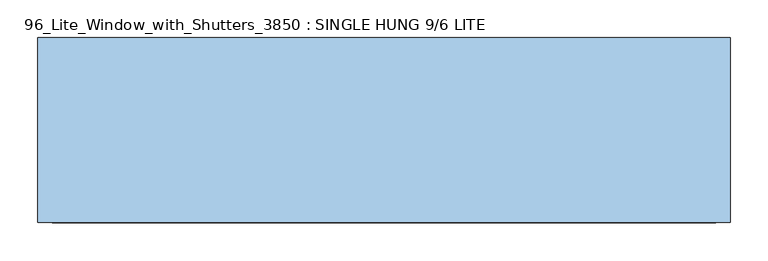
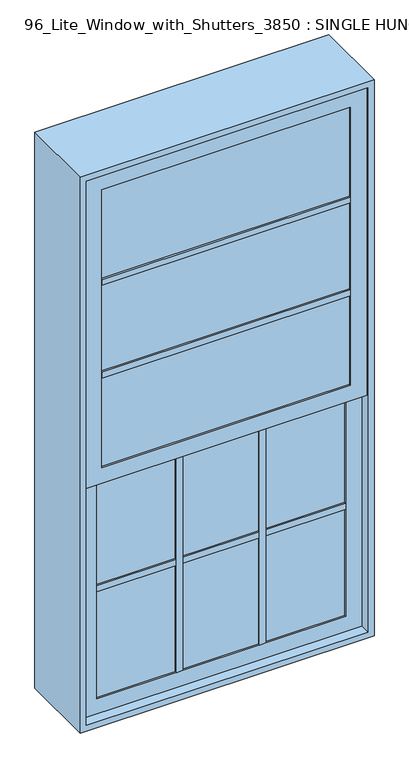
"""IFC4 building model written with IfcOpenShell, lengths in millimetres: window geometry, 96_Lite_Window_with_Shutters_3850 : SINGLE HUNG 9/6 LITE."""

from ifc_helpers import new_model, si_unit, frame, origin, place, context, project, spatial, polyline, outline, extrude, faceted_brep, source, transform, mapped, element, save


def window_96_lite_window_with_shutters_3850_single_hung_9_6_0142db39(model_context):
    return source(origin(), model_context, "Body", "SolidModel", [
        extrude(outline(polyline([(-387.35, -109.5375), (-387.35, -96.8375), (387.35, -96.8375), (387.35, -109.5375), (-387.35, -109.5375)])), frame((0.0, 0.0, 1149.35), z_axis=(0.0, 0.0, 1.0), x_axis=(1.0, 0.0, 0.0)), (0.0, 0.0, 1.0), 914.4),
        extrude(outline(polyline([(-120.517764, -84.1375), (-139.832236, -84.1375), (-139.832236, -58.7375), (-120.517764, -58.7375), (-120.517764, -84.1375)])), frame((0.0, 0.0, 1149.35), z_axis=(0.0, 0.0, 1.0), x_axis=(1.0, 0.0, 0.0)), (0.0, 0.0, 1.0), 914.4),
        extrude(outline(polyline([(138.244736, -84.1375), (118.930264, -84.1375), (118.930264, -58.7375), (138.244736, -58.7375), (138.244736, -84.1375)])), frame((0.0, 0.0, 1149.35), z_axis=(0.0, 0.0, 1.0), x_axis=(1.0, 0.0, 0.0)), (0.0, 0.0, 1.0), 914.4),
        extrude(outline(polyline([(1098.55, -438.15), (1098.55, 438.15), (2114.55, 438.15), (2114.55, -438.15), (1098.55, -438.15)]), holes=[polyline([(1149.35, 387.35), (1149.35, -387.35), (2063.75, -387.35), (2063.75, 387.35), (1149.35, 387.35)])]), frame((0.0, -115.8875, 0.0), z_axis=(0.0, 1.0, 0.0), x_axis=(0.0, 0.0, 1.0)), (0.0, 0.0, 1.0), 25.4),
        faceted_brep([(-419.1, -65.0875, 2095.5), (-419.1, -65.0875, 342.9), (-419.1, 122.2375, 342.9), (-419.1, 122.2375, 2095.5), (-457.2, 122.2375, 304.8), (-457.2, 122.2375, 2133.6), (457.2, 122.2375, 2133.6), (457.2, 122.2375, 304.8), (419.1, 122.2375, 342.9), (419.1, 122.2375, 2095.5), (419.1, -65.0875, 342.9), (-438.15, -65.0875, 2114.55), (-438.15, -65.0875, 323.85), (438.15, -65.0875, 323.85), (438.15, -65.0875, 2114.55), (419.1, -65.0875, 2095.5), (-438.15, -122.2375, 2114.55), (-438.15, -122.2375, 323.85), (438.15, -122.2375, 323.85), (-457.2, -122.2375, 2133.6), (-457.2, -122.2375, 304.8), (457.2, -122.2375, 304.8), (457.2, -122.2375, 2133.6), (438.15, -122.2375, 2114.55)], [[[0, 1, 2, 3]], [[4, 5, 6, 7], [3, 2, 8, 9]], [[1, 10, 8, 2]], [[11, 12, 13, 14], [1, 0, 15, 10]], [[16, 17, 12, 11]], [[17, 18, 13, 12]], [[19, 20, 21, 22], [17, 16, 23, 18]], [[5, 4, 20, 19]], [[4, 7, 21, 20]], [[10, 15, 9, 8]], [[18, 23, 14, 13]], [[7, 6, 22, 21]], [[15, 0, 3, 9]], [[23, 16, 11, 14]], [[6, 5, 19, 22]]]),
        extrude(outline(polyline([(387.35, -71.4375), (387.35, -84.1375), (-387.35, -84.1375), (-387.35, -71.4375), (387.35, -71.4375)])), frame((0.0, 0.0, 373.6326193), z_axis=(0.0, 0.0, 1.0), x_axis=(1.0, 0.0, 0.0)), (0.0, 0.0, 1.0), 724.9173807),
        extrude(outline(polyline([(138.244736, -90.4875), (118.930264, -90.4875), (118.930264, -65.0875), (138.244736, -65.0875), (138.244736, -90.4875)])), frame((0.0, 0.0, 373.6326193), z_axis=(0.0, 0.0, 1.0), x_axis=(1.0, 0.0, 0.0)), (0.0, 0.0, 1.0), 724.9173807),
        extrude(outline(polyline([(-120.517764, -90.4875), (-139.832236, -90.4875), (-139.832236, -65.0875), (-120.517764, -65.0875), (-120.517764, -90.4875)])), frame((0.0, 0.0, 373.6326193), z_axis=(0.0, 0.0, 1.0), x_axis=(1.0, 0.0, 0.0)), (0.0, 0.0, 1.0), 724.9173807),
        extrude(outline(polyline([(387.35, -90.4875), (-387.35, -90.4875), (-387.35, -65.0875), (387.35, -65.0875), (387.35, -90.4875)])), frame((0.0, 0.0, 726.5663097), z_axis=(0.0, 0.0, 1.0), x_axis=(1.0, 0.0, 0.0)), (0.0, 0.0, 1.0), 19.05),
        extrude(outline(polyline([(387.35, -115.8875), (-387.35, -115.8875), (-387.35, -90.4875), (387.35, -90.4875), (387.35, -115.8875)])), frame((0.0, 0.0, 1444.625), z_axis=(0.0, 0.0, 1.0), x_axis=(1.0, 0.0, 0.0)), (0.0, 0.0, 1.0), 19.05),
        extrude(outline(polyline([(387.35, -115.8875), (-387.35, -115.8875), (-387.35, -90.4875), (387.35, -90.4875), (387.35, -115.8875)])), frame((0.0, 0.0, 1749.425), z_axis=(0.0, 0.0, 1.0), x_axis=(1.0, 0.0, 0.0)), (0.0, 0.0, 1.0), 19.05),
        extrude(outline(polyline([(323.85, -438.15), (323.85, 438.15), (1149.35, 438.15), (1149.35, -438.15), (323.85, -438.15)]), holes=[polyline([(373.6326193, 387.35), (373.6326193, -387.35), (1098.55, -387.35), (1098.55, 387.35), (373.6326193, 387.35)])]), frame((0.0, -90.4875, 0.0), z_axis=(0.0, 1.0, 0.0), x_axis=(0.0, 0.0, 1.0)), (0.0, 0.0, 1.0), 25.4),
    ])


if __name__ == "__main__":
    model = new_model("IFC4")
    model_context = context("Model", 3, world=origin())
    ifc_project = project(units=[si_unit("LENGTHUNIT", "METRE", prefix="MILLI")], contexts=[model_context])
    site = spatial("IfcSite", under=ifc_project)
    building = spatial("IfcBuilding", under=site)
    placement = place(None, origin())
    window_96_lite_window_with_shutters_3850_single_hung_9_6_shape = window_96_lite_window_with_shutters_3850_single_hung_9_6_0142db39(model_context)
    element("IfcWindow", 1, ObjectType="96_Lite_Window_with_Shutters_3850 : SINGLE HUNG 9/6 LITE", at=placement, inside=building, context=model_context, shape_type="MappedRepresentation", body=[
        mapped(window_96_lite_window_with_shutters_3850_single_hung_9_6_shape, transform((0.0, 0.0, 0.0), x_axis=(1.0, 0.0, 0.0), y_axis=(0.0, 1.0, 0.0), z_axis=(0.0, 0.0, 1.0))),
    ])
    save(model, "model.ifc")
